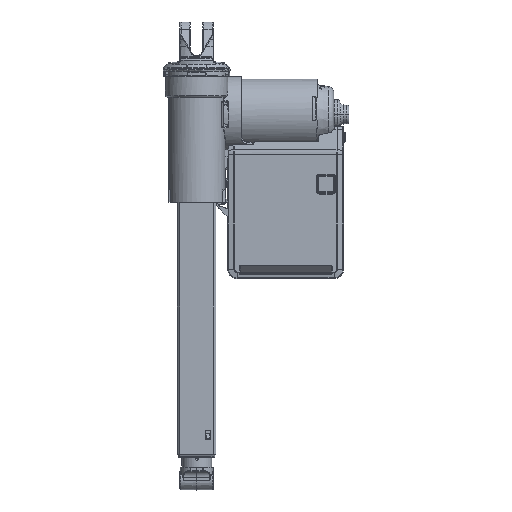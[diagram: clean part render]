
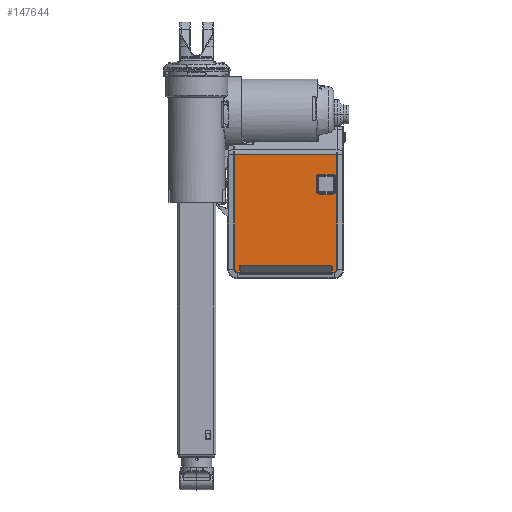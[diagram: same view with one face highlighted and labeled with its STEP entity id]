
A CAD part, left-side view. The second image highlights one B-rep face of the part: STEP entity #147644.
In plain terms, the highlighted planar face has unit normal (-1, 0, 0) as drawn and (0, 1, 0) by its records, which use the part's own axes.
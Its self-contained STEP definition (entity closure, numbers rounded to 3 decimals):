
#102308=DIRECTION('',(0.,0.,1.));
#102309=VECTOR('',#102308,75.965);
#102310=CARTESIAN_POINT('',(-125.404,22.,9.467));
#102311=LINE('',#102310,#102309);
#102312=CARTESIAN_POINT('',(-126.22,22.,8.888));
#102313=CARTESIAN_POINT('',(-126.15,22.,
8.888));
#102314=CARTESIAN_POINT('',(-126.018,22.,
8.901));
#102315=CARTESIAN_POINT('',(-125.848,22.,
8.946));
#102316=CARTESIAN_POINT('',(-125.706,22.,
9.011));
#102317=CARTESIAN_POINT('',(-125.59,22.,
9.092));
#102318=CARTESIAN_POINT('',(-125.502,22.,
9.183));
#102319=CARTESIAN_POINT('',(-125.442,22.,
9.281));
#102320=CARTESIAN_POINT('',(-125.41,22.,
9.378));
#102321=CARTESIAN_POINT('',(-125.404,22.,
9.438));
#102322=CARTESIAN_POINT('',(-125.404,22.,9.467));
#102324=DIRECTION('',(1.,0.,0.002));
#102325=VECTOR('',#102324,4.943);
#102326=CARTESIAN_POINT('',(-131.163,22.,8.879));
#102327=LINE('',#102326,#102325);
#102328=DIRECTION('',(0.,0.,1.));
#102329=VECTOR('',#102328,1.679);
#102330=CARTESIAN_POINT('',(-131.163,22.,7.2));
#102331=LINE('',#102330,#102329);
#102332=CARTESIAN_POINT('',(-128.7,22.,7.2));
#102333=DIRECTION('',(0.,1.,0.));
#102334=DIRECTION('',(0.,0.,-1.));
#102335=AXIS2_PLACEMENT_3D('',#102332,#102333,#102334);
#102337=DIRECTION('',(-1.,0.,0.));
#102338=VECTOR('',#102337,95.098);
#102339=CARTESIAN_POINT('',(-33.602,22.,
4.737));
#102340=LINE('',#102339,#102338);
#102341=DIRECTION('',(0.,0.,-1.));
#102342=VECTOR('',#102341,85.426);
#102343=CARTESIAN_POINT('',(-33.602,22.,
90.163));
#102344=LINE('',#102343,#102342);
#102345=DIRECTION('',(1.,0.,0.));
#102346=VECTOR('',#102345,95.098);
#102347=CARTESIAN_POINT('',(-128.7,22.,90.163));
#102348=LINE('',#102347,#102346);
#102349=CARTESIAN_POINT('',(-128.7,22.,87.7));
#102350=DIRECTION('',(0.,1.,0.));
#102351=DIRECTION('',(-1.,0.,0.));
#102352=AXIS2_PLACEMENT_3D('',#102349,#102350,#102351);
#102354=DIRECTION('',(0.,0.,1.));
#102355=VECTOR('',#102354,1.679);
#102356=CARTESIAN_POINT('',(-131.163,22.,86.021));
#102357=LINE('',#102356,#102355);
#102358=DIRECTION('',(-1.,0.,0.002));
#102359=VECTOR('',#102358,4.943);
#102360=CARTESIAN_POINT('',(-126.22,22.,86.012));
#102361=LINE('',#102360,#102359);
#102362=CARTESIAN_POINT('',(-125.404,22.,85.433));
#102363=CARTESIAN_POINT('',(-125.404,22.,
85.459));
#102364=CARTESIAN_POINT('',(-125.409,22.,
85.513));
#102365=CARTESIAN_POINT('',(-125.434,22.,
85.598));
#102366=CARTESIAN_POINT('',(-125.48,22.,
85.685));
#102367=CARTESIAN_POINT('',(-125.548,22.,
85.769));
#102368=CARTESIAN_POINT('',(-125.639,22.,
85.846));
#102369=CARTESIAN_POINT('',(-125.752,22.,
85.912));
#102370=CARTESIAN_POINT('',(-125.884,22.,
85.965));
#102371=CARTESIAN_POINT('',(-126.039,22.,
86.002));
#102372=CARTESIAN_POINT('',(-126.157,22.,
86.012));
#102373=CARTESIAN_POINT('',(-126.22,22.,86.012));
#102375=CARTESIAN_POINT('',(-63.075,22.,75.925));
#102376=DIRECTION('',(0.,-1.,0.));
#102377=DIRECTION('',(-1.,0.,0.));
#102378=AXIS2_PLACEMENT_3D('',#102375,#102376,#102377);
#102380=DIRECTION('',(0.,0.,-1.));
#102381=VECTOR('',#102380,10.15);
#102382=CARTESIAN_POINT('',(-66.303,22.,86.075));
#102383=LINE('',#102382,#102381);
#102384=CARTESIAN_POINT('',(-63.075,22.,86.075));
#102385=DIRECTION('',(0.,-1.,0.));
#102386=DIRECTION('',(0.,0.,1.));
#102387=AXIS2_PLACEMENT_3D('',#102384,#102385,#102386);
#102389=DIRECTION('',(-1.,0.,0.));
#102390=VECTOR('',#102389,10.15);
#102391=CARTESIAN_POINT('',(-52.925,22.,89.303));
#102392=LINE('',#102391,#102390);
#102393=CARTESIAN_POINT('',(-52.925,22.,86.075));
#102394=DIRECTION('',(0.,-1.,0.));
#102395=DIRECTION('',(1.,0.,0.));
#102396=AXIS2_PLACEMENT_3D('',#102393,#102394,#102395);
#102398=DIRECTION('',(0.,0.,1.));
#102399=VECTOR('',#102398,10.15);
#102400=CARTESIAN_POINT('',(-49.697,22.,75.925));
#102401=LINE('',#102400,#102399);
#102402=CARTESIAN_POINT('',(-52.925,22.,75.925));
#102403=DIRECTION('',(0.,-1.,0.));
#102404=DIRECTION('',(0.,0.,-1.));
#102405=AXIS2_PLACEMENT_3D('',#102402,#102403,#102404);
#102407=DIRECTION('',(1.,0.,0.));
#102408=VECTOR('',#102407,10.15);
#102409=CARTESIAN_POINT('',(-63.075,22.,72.697));
#102410=LINE('',#102409,#102408);
#103209=CARTESIAN_POINT('',(-33.602,22.,
90.163));
#124671=VERTEX_POINT('',#103209);
#124673=CARTESIAN_POINT('',(-128.7,22.,90.163));
#124674=VERTEX_POINT('',#124673);
#124677=CARTESIAN_POINT('',(-131.163,22.,87.7));
#124678=VERTEX_POINT('',#124677);
#124681=CARTESIAN_POINT('',(-128.7,22.,4.737));
#124682=CARTESIAN_POINT('',(-131.163,22.,7.2));
#124683=VERTEX_POINT('',#124681);
#124684=VERTEX_POINT('',#124682);
#124689=CARTESIAN_POINT('',(-33.602,22.,
4.737));
#124690=VERTEX_POINT('',#124689);
#125183=CARTESIAN_POINT('',(-125.404,22.,9.467));
#125184=CARTESIAN_POINT('',(-125.404,22.,85.433));
#125185=VERTEX_POINT('',#125183);
#125186=VERTEX_POINT('',#125184);
#125195=CARTESIAN_POINT('',(-131.163,22.,8.879));
#125196=CARTESIAN_POINT('',(-126.22,22.,8.888));
#125197=VERTEX_POINT('',#125195);
#125198=VERTEX_POINT('',#125196);
#125231=CARTESIAN_POINT('',(-126.22,22.,86.012));
#125232=CARTESIAN_POINT('',(-131.163,22.,86.021));
#125233=VERTEX_POINT('',#125231);
#125234=VERTEX_POINT('',#125232);
#125671=CARTESIAN_POINT('',(-66.303,22.,75.925));
#125672=CARTESIAN_POINT('',(-63.075,22.,72.697));
#125673=VERTEX_POINT('',#125671);
#125674=VERTEX_POINT('',#125672);
#125679=CARTESIAN_POINT('',(-52.925,22.,72.697));
#125680=VERTEX_POINT('',#125679);
#125683=CARTESIAN_POINT('',(-49.697,22.,75.925));
#125684=VERTEX_POINT('',#125683);
#125687=CARTESIAN_POINT('',(-49.697,22.,86.075));
#125688=VERTEX_POINT('',#125687);
#125691=CARTESIAN_POINT('',(-52.925,22.,89.303));
#125692=VERTEX_POINT('',#125691);
#125695=CARTESIAN_POINT('',(-63.075,22.,89.303));
#125696=VERTEX_POINT('',#125695);
#125699=CARTESIAN_POINT('',(-66.303,22.,86.075));
#125700=VERTEX_POINT('',#125699);
#147597=CARTESIAN_POINT('',(0.,22.,0.));
#147598=DIRECTION('',(0.,1.,0.));
#147599=DIRECTION('',(1.,0.,0.));
#147600=AXIS2_PLACEMENT_3D('',#147597,#147598,#147599);
#147601=PLANE('',#147600);
#147602=ORIENTED_EDGE('',*,*,#147527,.F.);
#147603=ORIENTED_EDGE('',*,*,#147587,.F.);
#147605=ORIENTED_EDGE('',*,*,#147604,.F.);
#147607=ORIENTED_EDGE('',*,*,#147606,.F.);
#147609=ORIENTED_EDGE('',*,*,#147608,.F.);
#147611=ORIENTED_EDGE('',*,*,#147610,.F.);
#147613=ORIENTED_EDGE('',*,*,#147612,.F.);
#147615=ORIENTED_EDGE('',*,*,#147614,.F.);
#147617=ORIENTED_EDGE('',*,*,#147616,.F.);
#147619=ORIENTED_EDGE('',*,*,#147618,.F.);
#147621=ORIENTED_EDGE('',*,*,#147620,.F.);
#147623=ORIENTED_EDGE('',*,*,#147622,.F.);
#147624=EDGE_LOOP('',(#147602,#147603,#147605,#147607,#147609,#147611,#147613,
#147615,#147617,#147619,#147621,#147623));
#147625=FACE_OUTER_BOUND('',#147624,.F.);
#147627=ORIENTED_EDGE('',*,*,#147626,.F.);
#147629=ORIENTED_EDGE('',*,*,#147628,.F.);
#147631=ORIENTED_EDGE('',*,*,#147630,.F.);
#147633=ORIENTED_EDGE('',*,*,#147632,.F.);
#147635=ORIENTED_EDGE('',*,*,#147634,.F.);
#147637=ORIENTED_EDGE('',*,*,#147636,.F.);
#147639=ORIENTED_EDGE('',*,*,#147638,.F.);
#147641=ORIENTED_EDGE('',*,*,#147640,.F.);
#147642=EDGE_LOOP('',(#147627,#147629,#147631,#147633,#147635,#147637,#147639,
#147641));
#147643=FACE_BOUND('',#147642,.F.);
#102323=B_SPLINE_CURVE_WITH_KNOTS('',3,(#102312,#102313,#102314,#102315,#102316,
#102317,#102318,#102319,#102320,#102321,#102322),.UNSPECIFIED.,.F.,.F.,(4,1,1,1,
1,1,1,1,4),(0.,0.125,0.25,0.375,0.5,0.625,0.75,0.875,1.),
.UNSPECIFIED.);
#102336=CIRCLE('',#102335,2.463);
#102353=CIRCLE('',#102352,2.463);
#102374=B_SPLINE_CURVE_WITH_KNOTS('',3,(#102362,#102363,#102364,#102365,#102366,
#102367,#102368,#102369,#102370,#102371,#102372,#102373),.UNSPECIFIED.,.F.,.F.,(
4,1,1,1,1,1,1,1,1,4),(0.,0.111,0.222,
0.333,0.444,0.556,0.667,
0.778,0.889,1.),.UNSPECIFIED.);
#102379=CIRCLE('',#102378,3.228);
#102388=CIRCLE('',#102387,3.228);
#102397=CIRCLE('',#102396,3.228);
#102406=CIRCLE('',#102405,3.228);
#147527=EDGE_CURVE('',#125185,#125186,#102311,.T.);
#147587=EDGE_CURVE('',#125198,#125185,#102323,.T.);
#147604=EDGE_CURVE('',#125197,#125198,#102327,.T.);
#147606=EDGE_CURVE('',#124684,#125197,#102331,.T.);
#147608=EDGE_CURVE('',#124683,#124684,#102336,.T.);
#147610=EDGE_CURVE('',#124690,#124683,#102340,.T.);
#147612=EDGE_CURVE('',#124671,#124690,#102344,.T.);
#147614=EDGE_CURVE('',#124674,#124671,#102348,.T.);
#147616=EDGE_CURVE('',#124678,#124674,#102353,.T.);
#147618=EDGE_CURVE('',#125234,#124678,#102357,.T.);
#147620=EDGE_CURVE('',#125233,#125234,#102361,.T.);
#147622=EDGE_CURVE('',#125186,#125233,#102374,.T.);
#147626=EDGE_CURVE('',#125673,#125674,#102379,.T.);
#147628=EDGE_CURVE('',#125700,#125673,#102383,.T.);
#147630=EDGE_CURVE('',#125696,#125700,#102388,.T.);
#147632=EDGE_CURVE('',#125692,#125696,#102392,.T.);
#147634=EDGE_CURVE('',#125688,#125692,#102397,.T.);
#147636=EDGE_CURVE('',#125684,#125688,#102401,.T.);
#147638=EDGE_CURVE('',#125680,#125684,#102406,.T.);
#147640=EDGE_CURVE('',#125674,#125680,#102410,.T.);
#147644=ADVANCED_FACE('',(#147625,#147643),#147601,.T.);
